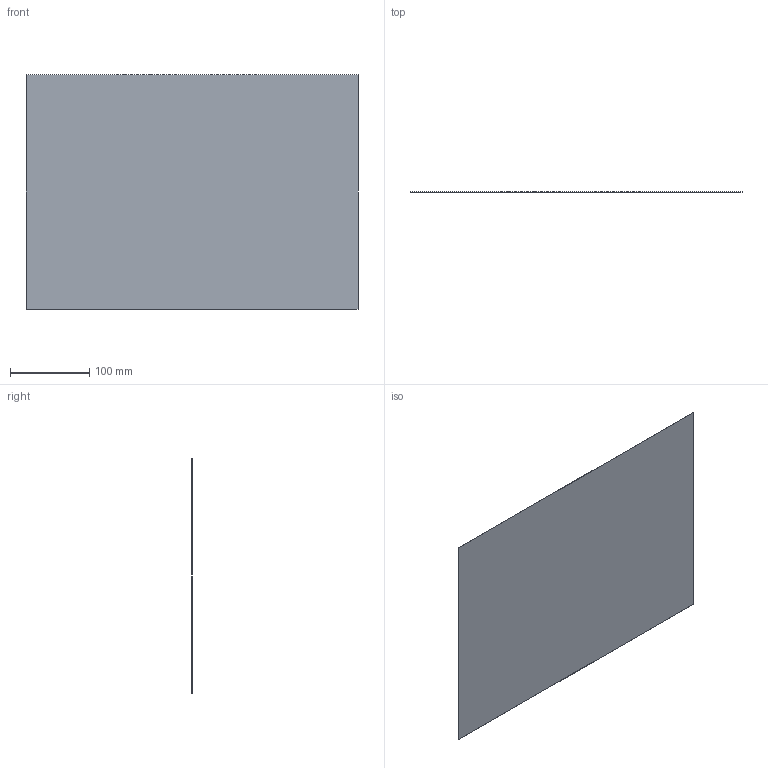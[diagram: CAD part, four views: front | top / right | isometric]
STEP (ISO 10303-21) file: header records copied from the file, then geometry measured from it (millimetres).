
FILE_DESCRIPTION(/* description */ ('STEP AP242 Edition 2','CAx-IF Rec.Pracs.---Representation and Presentation of Product Manufacturing Information (PMI)---4.0---2014-10-13','CAx-IF Rec.Pracs.---3D Tessellated Geometry---0.4---2014-09-14','2;1','CAx-IF Rec.Pracs.---User Defined Attributes---1.5---2016-08-15'),/* implementation_level */ '2;1');
FILE_NAME(/* name */ 'Final Build - A3 paper',/* time_stamp */ '2026-08-31T23:26:07Z',/* author */ (''),/* organization */ (''),/* preprocessor_version */ 'ST-DEVELOPER v20',/* originating_system */ 'ONSHAPE BY PTC INC, 1.220',/* authorisation */ ' ');
FILE_SCHEMA (('AP242_MANAGED_MODEL_BASED_3D_ENGINEERING_MIM_LF { 1 0 10303 442 3 1 4 }'));
Length unit declared in the file: metre
Products named in the file (1): A3 paper
Bounding box: 420 x 0.19 x 297 mm (x, y, z)
Volume: 23700.6 mm3; surface area: 249752.5 mm2
Topology: 1 solids, 1 shells, 6 faces, 12 edges, 8 vertices
Faces by surface type: plane 6
Entity records: 178 total; most frequent: CARTESIAN_POINT 27, DIRECTION 26, ORIENTED_EDGE 24, EDGE_CURVE 12, LINE 12, VECTOR 12, VERTEX_POINT 8, AXIS2_PLACEMENT_3D 7
